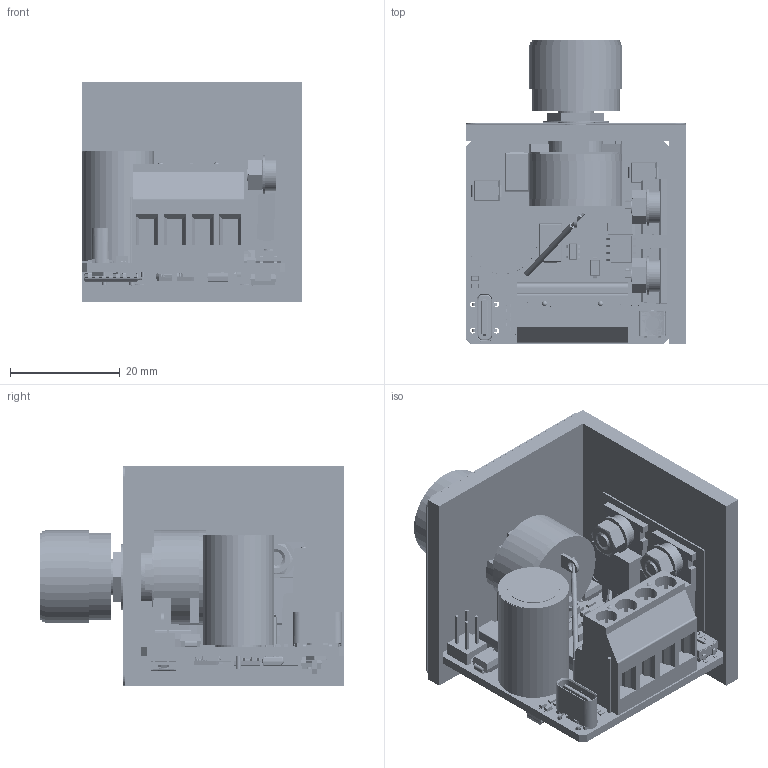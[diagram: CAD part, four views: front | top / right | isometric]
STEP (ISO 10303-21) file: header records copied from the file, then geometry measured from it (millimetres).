
FILE_DESCRIPTION(('Open CASCADE Model'),'2;1');
FILE_NAME('Open CASCADE Shape Model','2026-04-30T12:03:16',('Author'),( 'Open CASCADE'),'Open CASCADE STEP processor 7.5','Open CASCADE 7.5' ,'Unknown');
FILE_SCHEMA(('AUTOMOTIVE_DESIGN { 1 0 10303 214 1 1 1 1 }'));
Length unit declared in the file: millimetre
Products named in the file (560): Open CASCADE STEP translator 7.5 1; Open CASCADE STEP translator 7.5 2; Open CASCADE STEP translator 7.5 3; Open CASCADE STEP translator 7.5 4; Open CASCADE STEP translator 7.5 5; Open CASCADE STEP translator 7.5 6; Open CASCADE STEP translator 7.5 7; Open CASCADE STEP translator 7.5 8; Open CASCADE STEP translator 7.5 9; Open CASCADE STEP translator 7.5 10; Open CASCADE STEP translator 7.5 11; Open CASCADE STEP translator 7.5 12; Open CASCADE STEP translator 7.5 13; Open CASCADE STEP translator 7.5 14; Open CASCADE STEP translator 7.5 15; Open CASCADE STEP translator 7.5 16; Open CASCADE STEP translator 7.5 17; Open CASCADE STEP translator 7.5 18; Open CASCADE STEP translator 7.5 19; Open CASCADE STEP translator 7.5 20; Open CASCADE STEP translator 7.5 21; Open CASCADE STEP translator 7.5 22; Open CASCADE STEP translator 7.5 23; Open CASCADE STEP translator 7.5 24; Open CASCADE STEP translator 7.5 25; Open CASCADE STEP translator 7.5 26; Open CASCADE STEP translator 7.5 27; Open CASCADE STEP translator 7.5 28; Open CASCADE STEP translator 7.5 29; Open CASCADE STEP translator 7.5 30; Open CASCADE STEP translator 7.5 31; Open CASCADE STEP translator 7.5 32; Open CASCADE STEP translator 7.5 33; Open CASCADE STEP translator 7.5 34; Open CASCADE STEP translator 7.5 35; Open CASCADE STEP translator 7.5 36; Open CASCADE STEP translator 7.5 37; Open CASCADE STEP translator 7.5 38; Open CASCADE STEP translator 7.5 39; Open CASCADE STEP translator 7.5 40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
Bounding box: 40.1 x 55.5 x 40 mm (x, y, z)
Volume: 28502.3 mm3; surface area: 31624.7 mm2
Topology: 643 solids, 643 shells, 36702 faces, 101934 edges, 66206 vertices
Faces by surface type: plane 29776, bspline 3621, cylinder 2875, sphere 276, torus 70, revolution 48, cone 36
Full cylindrical faces by diameter (mm): 0.1 x1, 0.487 x3, 0.5 x4, 0.52 x1, 0.7 x2, 0.89 x1, 0.9 x8, 1 x8, 1.04 x4, 1.2 x3, 1.3 x6, 1.4 x6, 1.8 x2, 6.6 x2, 8.4 x1, 9.6 x1, 12 x1, 13 x1, 16 x1, 16.5 x1, 16.6 x1, 17 x3
Entity records: 1286090 total; most frequent: CARTESIAN_POINT 283024, ORIENTED_EDGE 202672, DIRECTION 171320, EDGE_CURVE 101336, LINE 91676, VECTOR 91676, VERTEX_POINT 66206, AXIS2_PLACEMENT_3D 39798
